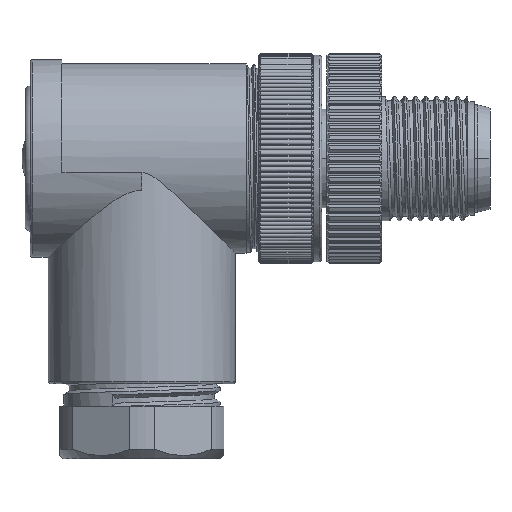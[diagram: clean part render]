
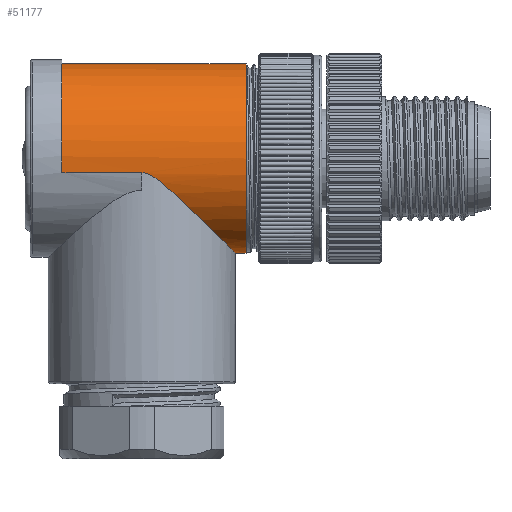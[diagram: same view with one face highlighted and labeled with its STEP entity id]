
A CAD part, front view. The second image highlights one B-rep face of the part: STEP entity #51177.
In plain terms, the highlighted cylindrical face has radius 9 mm (diameter 18 mm), a partial arc.
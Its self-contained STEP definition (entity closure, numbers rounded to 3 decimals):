
#16429=CARTESIAN_POINT('',(9.9,0.,28.537));
#16430=DIRECTION('',(1.,0.,0.));
#16431=DIRECTION('',(0.,0.,1.));
#16432=AXIS2_PLACEMENT_3D('',#16429,#16430,#16431);
#16448=DIRECTION('',(-1.,0.,0.));
#16449=VECTOR('',#16448,7.6);
#16450=CARTESIAN_POINT('',(0.,-8.9,
27.199));
#16451=LINE('',#16450,#16449);
#27502=CARTESIAN_POINT('',(0.,-8.9,
27.199));
#27503=CARTESIAN_POINT('',(0.027,-8.9,
27.199));
#27504=CARTESIAN_POINT('',(0.081,-8.9,
27.198));
#27505=CARTESIAN_POINT('',(0.163,-8.899,
27.19));
#27506=CARTESIAN_POINT('',(0.247,-8.897,
27.178));
#27507=CARTESIAN_POINT('',(0.335,-8.894,
27.159));
#27508=CARTESIAN_POINT('',(0.427,-8.89,
27.134));
#27509=CARTESIAN_POINT('',(0.526,-8.885,
27.101));
#27510=CARTESIAN_POINT('',(0.633,-8.878,
27.059));
#27511=CARTESIAN_POINT('',(0.751,-8.869,
27.005));
#27512=CARTESIAN_POINT('',(0.882,-8.857,
26.936));
#27513=CARTESIAN_POINT('',(1.029,-8.841,
26.851));
#27514=CARTESIAN_POINT('',(1.193,-8.82,
26.746));
#27515=CARTESIAN_POINT('',(1.374,-8.794,
26.621));
#27516=CARTESIAN_POINT('',(1.576,-8.76,
26.472));
#27517=CARTESIAN_POINT('',(1.799,-8.717,
26.297));
#27518=CARTESIAN_POINT('',(2.047,-8.663,
26.094));
#27519=CARTESIAN_POINT('',(2.323,-8.593,
25.858));
#27520=CARTESIAN_POINT('',(2.63,-8.505,
25.588));
#27521=CARTESIAN_POINT('',(2.978,-8.39,
25.274));
#27522=CARTESIAN_POINT('',(3.346,-8.25,
24.934));
#27523=CARTESIAN_POINT('',(3.701,-8.097,
24.603));
#27524=CARTESIAN_POINT('',(4.046,-7.93,
24.276));
#27525=CARTESIAN_POINT('',(4.38,-7.751,
23.958));
#27526=CARTESIAN_POINT('',(4.701,-7.56,
23.65));
#27527=CARTESIAN_POINT('',(5.009,-7.36,
23.353));
#27528=CARTESIAN_POINT('',(5.304,-7.15,
23.067));
#27529=CARTESIAN_POINT('',(5.586,-6.931,
22.793));
#27530=CARTESIAN_POINT('',(5.855,-6.706,
22.531));
#27531=CARTESIAN_POINT('',(6.111,-6.474,
22.282));
#27532=CARTESIAN_POINT('',(6.353,-6.236,
22.045));
#27533=CARTESIAN_POINT('',(6.583,-5.993,
21.82));
#27534=CARTESIAN_POINT('',(6.799,-5.746,
21.608));
#27535=CARTESIAN_POINT('',(7.004,-5.495,
21.407));
#27536=CARTESIAN_POINT('',(7.195,-5.241,
21.219));
#27537=CARTESIAN_POINT('',(7.375,-4.985,
21.042));
#27538=CARTESIAN_POINT('',(7.543,-4.726,
20.876));
#27539=CARTESIAN_POINT('',(7.7,-4.466,
20.722));
#27540=CARTESIAN_POINT('',(7.846,-4.205,
20.578));
#27541=CARTESIAN_POINT('',(7.981,-3.943,
20.445));
#27542=CARTESIAN_POINT('',(8.105,-3.68,
20.322));
#27543=CARTESIAN_POINT('',(8.22,-3.417,
20.209));
#27544=CARTESIAN_POINT('',(8.324,-3.153,
20.106));
#27545=CARTESIAN_POINT('',(8.419,-2.889,
20.012));
#27546=CARTESIAN_POINT('',(8.505,-2.626,
19.927));
#27547=CARTESIAN_POINT('',(8.582,-2.362,
19.851));
#27548=CARTESIAN_POINT('',(8.65,-2.099,
19.784));
#27549=CARTESIAN_POINT('',(8.71,-1.836,
19.725));
#27550=CARTESIAN_POINT('',(8.761,-1.573,
19.675));
#27551=CARTESIAN_POINT('',(8.804,-1.31,
19.632));
#27552=CARTESIAN_POINT('',(8.839,-1.048,
19.597));
#27553=CARTESIAN_POINT('',(8.867,-0.786,
19.57));
#27554=CARTESIAN_POINT('',(8.886,-0.524,
19.551));
#27555=CARTESIAN_POINT('',(8.897,-0.262,
19.54));
#27556=CARTESIAN_POINT('',(8.9,-0.087,
19.537));
#27557=CARTESIAN_POINT('',(8.9,0.,19.537));
#27616=DIRECTION('',(1.,0.,0.));
#27617=VECTOR('',#27616,1.);
#27618=CARTESIAN_POINT('',(8.9,0.,19.537));
#27619=LINE('',#27618,#27617);
#27620=DIRECTION('',(1.,0.,0.));
#27621=VECTOR('',#27620,17.5);
#27622=CARTESIAN_POINT('',(-7.6,0.,37.537));
#27623=LINE('',#27622,#27621);
#27637=CARTESIAN_POINT('',(-7.6,0.,28.537));
#27638=DIRECTION('',(-1.,0.,0.));
#27639=DIRECTION('',(0.,-0.989,-0.149));
#27640=AXIS2_PLACEMENT_3D('',#27637,#27638,#27639);
#31450=CARTESIAN_POINT('',(0.,-8.9,
27.199));
#31452=VERTEX_POINT('',#31450);
#31455=CARTESIAN_POINT('',(-7.6,-8.9,27.199));
#31457=VERTEX_POINT('',#31455);
#31672=CARTESIAN_POINT('',(8.9,0.,19.537));
#31674=VERTEX_POINT('',#31672);
#31699=CARTESIAN_POINT('',(-7.6,0.,37.537));
#31700=CARTESIAN_POINT('',(9.9,0.,37.537));
#31701=VERTEX_POINT('',#31699);
#31702=VERTEX_POINT('',#31700);
#31703=CARTESIAN_POINT('',(9.9,0.,19.537));
#31704=VERTEX_POINT('',#31703);
#51159=CARTESIAN_POINT('',(10.4,0.,28.537));
#51160=DIRECTION('',(1.,0.,0.));
#51161=DIRECTION('',(0.,0.,1.));
#51162=AXIS2_PLACEMENT_3D('',#51159,#51160,#51161);
#51163=CYLINDRICAL_SURFACE('',#51162,9.);
#51165=ORIENTED_EDGE('',*,*,#51164,.T.);
#51167=ORIENTED_EDGE('',*,*,#51166,.T.);
#51169=ORIENTED_EDGE('',*,*,#51168,.T.);
#51170=ORIENTED_EDGE('',*,*,#51142,.T.);
#51172=ORIENTED_EDGE('',*,*,#51171,.F.);
#51174=ORIENTED_EDGE('',*,*,#51173,.F.);
#51175=EDGE_LOOP('',(#51165,#51167,#51169,#51170,#51172,#51174));
#51176=FACE_OUTER_BOUND('',#51175,.F.);
#51177=ADVANCED_FACE('',(#51176),#51163,.T.);
#16433=CIRCLE('',#16432,9.);
#27558=B_SPLINE_CURVE_WITH_KNOTS('',3,(#27502,#27503,#27504,#27505,#27506,
#27507,#27508,#27509,#27510,#27511,#27512,#27513,#27514,#27515,#27516,#27517,
#27518,#27519,#27520,#27521,#27522,#27523,#27524,#27525,#27526,#27527,#27528,
#27529,#27530,#27531,#27532,#27533,#27534,#27535,#27536,#27537,#27538,#27539,
#27540,#27541,#27542,#27543,#27544,#27545,#27546,#27547,#27548,#27549,#27550,
#27551,#27552,#27553,#27554,#27555,#27556,#27557),.UNSPECIFIED.,.F.,.F.,(4,1,1,
1,1,1,1,1,1,1,1,1,1,1,1,1,1,1,1,1,1,1,1,1,1,1,1,1,1,1,1,1,1,1,1,1,1,1,1,1,1,1,1,
1,1,1,1,1,1,1,1,1,1,4),(0.,0.019,0.038,
0.057,0.075,0.094,0.113,
0.132,0.151,0.17,0.189,
0.208,0.226,0.245,0.264,
0.283,0.302,0.321,0.34,
0.358,0.377,0.396,0.415,
0.434,0.453,0.472,0.491,
0.509,0.528,0.547,0.566,
0.585,0.604,0.623,0.642,
0.66,0.679,0.698,0.717,
0.736,0.755,0.774,0.792,
0.811,0.83,0.849,0.868,
0.887,0.906,0.925,0.943,
0.962,0.981,1.),.UNSPECIFIED.);
#27641=CIRCLE('',#27640,9.);
#51142=EDGE_CURVE('',#31702,#31704,#16433,.T.);
#51164=EDGE_CURVE('',#31452,#31457,#16451,.T.);
#51166=EDGE_CURVE('',#31457,#31701,#27641,.T.);
#51168=EDGE_CURVE('',#31701,#31702,#27623,.T.);
#51171=EDGE_CURVE('',#31674,#31704,#27619,.T.);
#51173=EDGE_CURVE('',#31452,#31674,#27558,.T.);
